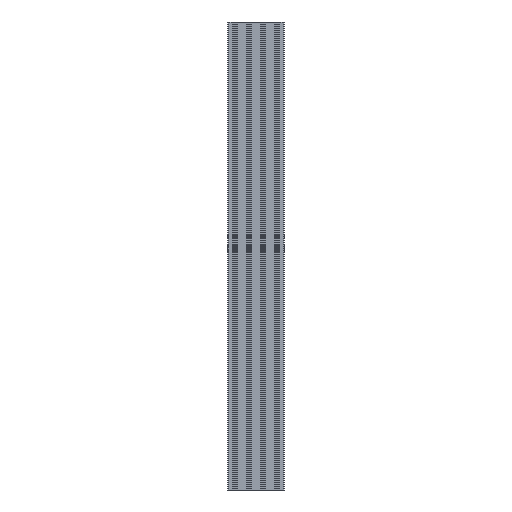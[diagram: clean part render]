
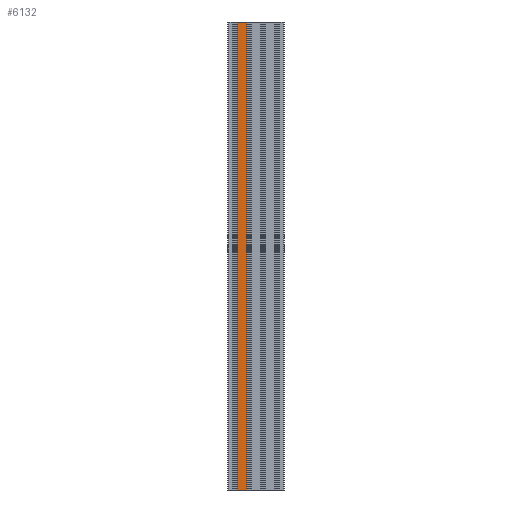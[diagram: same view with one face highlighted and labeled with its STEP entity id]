
A CAD part, front view. The second image highlights one B-rep face of the part: STEP entity #6132.
In plain terms, the highlighted planar face has unit normal (0, -1, 0).
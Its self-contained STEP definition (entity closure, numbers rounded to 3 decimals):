
#287 = CARTESIAN_POINT ( 'NONE',  ( 25., -15.006, 1000. ) ) ;
#497 = DIRECTION ( 'NONE',  ( 1., 0., 0. ) ) ;
#711 = CARTESIAN_POINT ( 'NONE',  ( 5., -15.006, 1000. ) ) ;
#883 = DIRECTION ( 'NONE',  ( 0., 1., 0. ) ) ;
#894 = AXIS2_PLACEMENT_3D ( 'NONE', #5167, #883, #6894 ) ;
#2041 = EDGE_CURVE ( 'NONE', #8374, #4694, #4194, .T. ) ;
#2865 = VECTOR ( 'NONE', #3555, 1000. ) ;
#3126 = LINE ( 'NONE', #10446, #2865 ) ;
#3322 = ORIENTED_EDGE ( 'NONE', *, *, #10900, .T. ) ;
#3555 = DIRECTION ( 'NONE',  ( 1., 0., 0. ) ) ;
#3562 = CARTESIAN_POINT ( 'NONE',  ( 25., -15.006, 0. ) ) ;
#3727 = FACE_OUTER_BOUND ( 'NONE', #5093, .T. ) ;
#4194 = LINE ( 'NONE', #8191, #10537 ) ;
#4694 = VERTEX_POINT ( 'NONE', #9563 ) ;
#5093 = EDGE_LOOP ( 'NONE', ( #8036, #5994, #8037, #3322 ) ) ;
#5167 = CARTESIAN_POINT ( 'NONE',  ( 5., -15.006, 1000. ) ) ;
#5994 = ORIENTED_EDGE ( 'NONE', *, *, #7519, .F. ) ;
#6110 = VERTEX_POINT ( 'NONE', #8600 ) ;
#6123 = VECTOR ( 'NONE', #6331, 1000. ) ;
#6132 = ADVANCED_FACE ( 'NONE', ( #3727 ), #10314, .F. ) ;
#6331 = DIRECTION ( 'NONE',  ( 0., 0., -1. ) ) ;
#6446 = VECTOR ( 'NONE', #10172, 1000. ) ;
#6894 = DIRECTION ( 'NONE',  ( 0., 0., 1. ) ) ;
#7197 = CARTESIAN_POINT ( 'NONE',  ( 5., -15.006, 1000. ) ) ;
#7519 = EDGE_CURVE ( 'NONE', #4694, #11111, #10944, .T. ) ;
#8036 = ORIENTED_EDGE ( 'NONE', *, *, #8225, .T. ) ;
#8037 = ORIENTED_EDGE ( 'NONE', *, *, #2041, .F. ) ;
#8191 = CARTESIAN_POINT ( 'NONE',  ( 5., -15.006, 1000. ) ) ;
#8225 = EDGE_CURVE ( 'NONE', #6110, #11111, #3126, .T. ) ;
#8374 = VERTEX_POINT ( 'NONE', #7197 ) ;
#8600 = CARTESIAN_POINT ( 'NONE',  ( 5., -15.006, 0. ) ) ;
#9563 = CARTESIAN_POINT ( 'NONE',  ( 25., -15.006, 1000. ) ) ;
#10172 = DIRECTION ( 'NONE',  ( 0., 0., -1. ) ) ;
#10314 = PLANE ( 'NONE',  #894 ) ;
#10446 = CARTESIAN_POINT ( 'NONE',  ( 5., -15.006, 0. ) ) ;
#10537 = VECTOR ( 'NONE', #497, 1000. ) ;
#10900 = EDGE_CURVE ( 'NONE', #8374, #6110, #11030, .T. ) ;
#10944 = LINE ( 'NONE', #287, #6123 ) ;
#11030 = LINE ( 'NONE', #711, #6446 ) ;
#11111 = VERTEX_POINT ( 'NONE', #3562 ) ;
